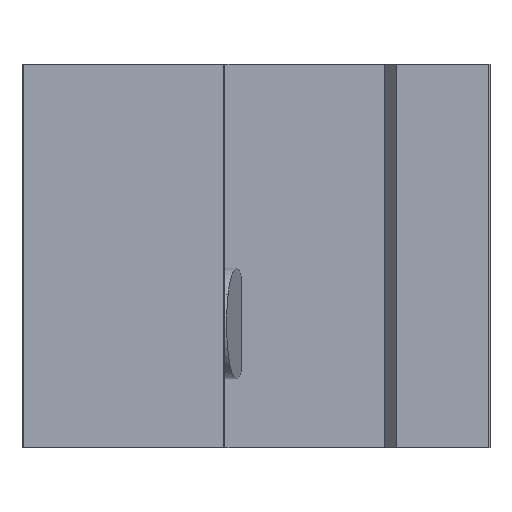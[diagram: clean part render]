
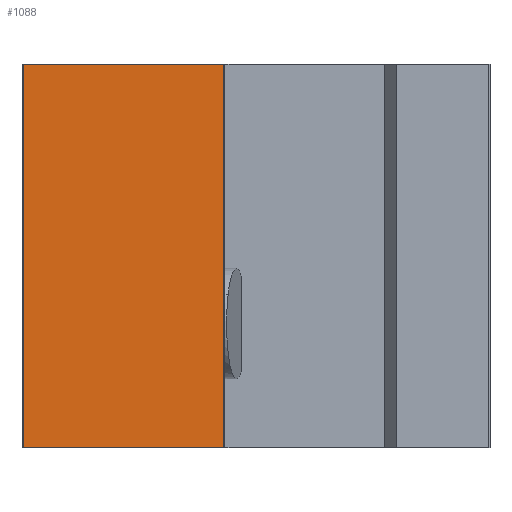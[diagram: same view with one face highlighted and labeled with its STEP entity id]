
A CAD part, front view. The second image highlights one B-rep face of the part: STEP entity #1088.
In plain terms, the highlighted planar face has unit normal (0, -1, 0).
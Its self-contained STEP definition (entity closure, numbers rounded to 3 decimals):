
#704 = EDGE_CURVE( '', #1278, #872, #1831, .T. );
#822 = EDGE_CURVE( '', #898, #1278, #1962, .T. );
#872 = VERTEX_POINT( '', #2015 );
#898 = VERTEX_POINT( '', #2044 );
#1088 = ADVANCED_FACE( '', ( #2258 ), #2259, .T. );
#1168 = EDGE_CURVE( '', #898, #1258, #2347, .T. );
#1258 = VERTEX_POINT( '', #2447 );
#1278 = VERTEX_POINT( '', #2473 );
#1318 = EDGE_CURVE( '', #1258, #872, #2519, .T. );
#1831 = LINE( '', #3131, #3132 );
#1962 = LINE( '', #3313, #3314 );
#2015 = CARTESIAN_POINT( '', ( -7.9, 0., -34. ) );
#2044 = CARTESIAN_POINT( '', ( -25.7, 0., 0. ) );
#2258 = FACE_OUTER_BOUND( '', #3727, .T. );
#2259 = PLANE( '', #3728 );
#2347 = LINE( '', #3850, #3851 );
#2447 = CARTESIAN_POINT( '', ( -7.9, 0., 0. ) );
#2473 = CARTESIAN_POINT( '', ( -25.7, 0., -34. ) );
#2519 = LINE( '', #4074, #4075 );
#3131 = CARTESIAN_POINT( '', ( -25.7, 0., -34. ) );
#3132 = VECTOR( '', #4769, 1. );
#3313 = CARTESIAN_POINT( '', ( -25.7, 0., 0. ) );
#3314 = VECTOR( '', #4906, 1. );
#3727 = EDGE_LOOP( '', ( #5231, #5232, #5233, #5234 ) );
#3728 = AXIS2_PLACEMENT_3D( '', #5235, #5236, #5237 );
#3850 = CARTESIAN_POINT( '', ( -25.7, 0., 0. ) );
#3851 = VECTOR( '', #5342, 1. );
#4074 = CARTESIAN_POINT( '', ( -7.9, 0., 0. ) );
#4075 = VECTOR( '', #5555, 1. );
#4769 = DIRECTION( '', ( 1., 0., 0. ) );
#4906 = DIRECTION( '', ( 0., 0., -1. ) );
#5231 = ORIENTED_EDGE( '', *, *, #704, .T. );
#5232 = ORIENTED_EDGE( '', *, *, #1318, .F. );
#5233 = ORIENTED_EDGE( '', *, *, #1168, .F. );
#5234 = ORIENTED_EDGE( '', *, *, #822, .T. );
#5235 = CARTESIAN_POINT( '', ( -25.7, 0., 0. ) );
#5236 = DIRECTION( '', ( 0., -1., 0. ) );
#5237 = DIRECTION( '', ( -1., 0., 0. ) );
#5342 = DIRECTION( '', ( 1., 0., 0. ) );
#5555 = DIRECTION( '', ( 0., 0., -1. ) );
